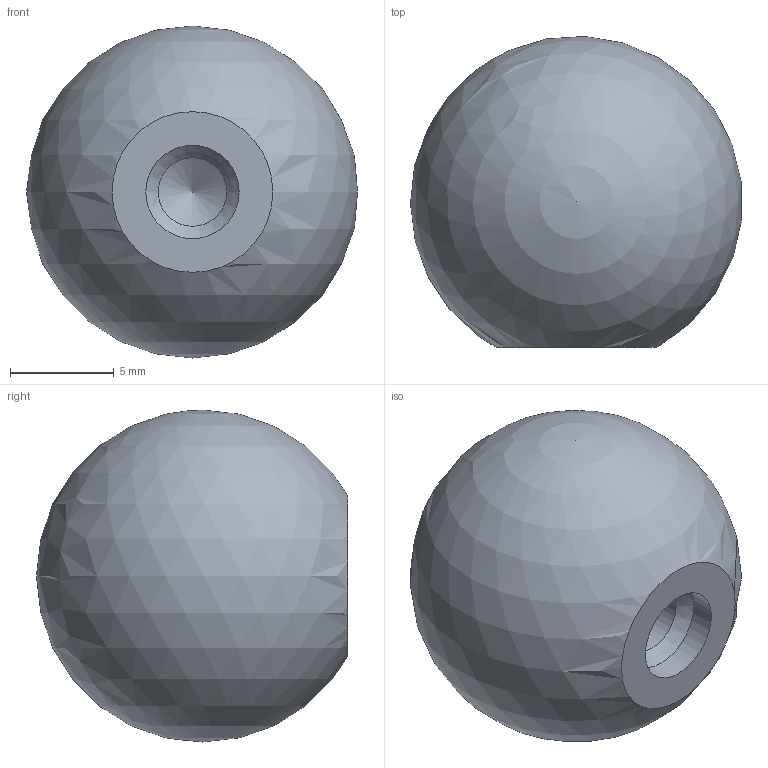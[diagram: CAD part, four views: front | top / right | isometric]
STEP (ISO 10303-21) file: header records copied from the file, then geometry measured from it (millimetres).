
FILE_DESCRIPTION (( 'STEP AP214' ), '1' );
FILE_NAME ('319-AL-16-M4-C.step', '2019-04-24T08:49:23', ( 'user' ), ( '' ), 'SwSTEP 2.0', 'SolidWorks 2019', '' );
FILE_SCHEMA (( 'AUTOMOTIVE_DESIGN' ));
Length unit declared in the file: millimetre
Products named in the file (1): 319-AL-16-M4-C
Bounding box: 15.95 x 14.99 x 16 mm (x, y, z)
Volume: 2012.7 mm3; surface area: 917.9 mm2
Topology: 1 solids, 1 shells, 6 faces, 15 edges, 10 vertices
Faces by surface type: cone 2, cylinder 2, plane 1, sphere 1
Full cylindrical faces by diameter (mm): 3.3 x1, 4.5 x1
Entity records: 159 total; most frequent: DIRECTION 24, CARTESIAN_POINT 17, AXIS2_PLACEMENT_3D 12, EDGE_LOOP 10, ORIENTED_EDGE 10, FACE_OUTER_BOUND 8, ADVANCED_FACE 6, VERTEX_POINT 5
